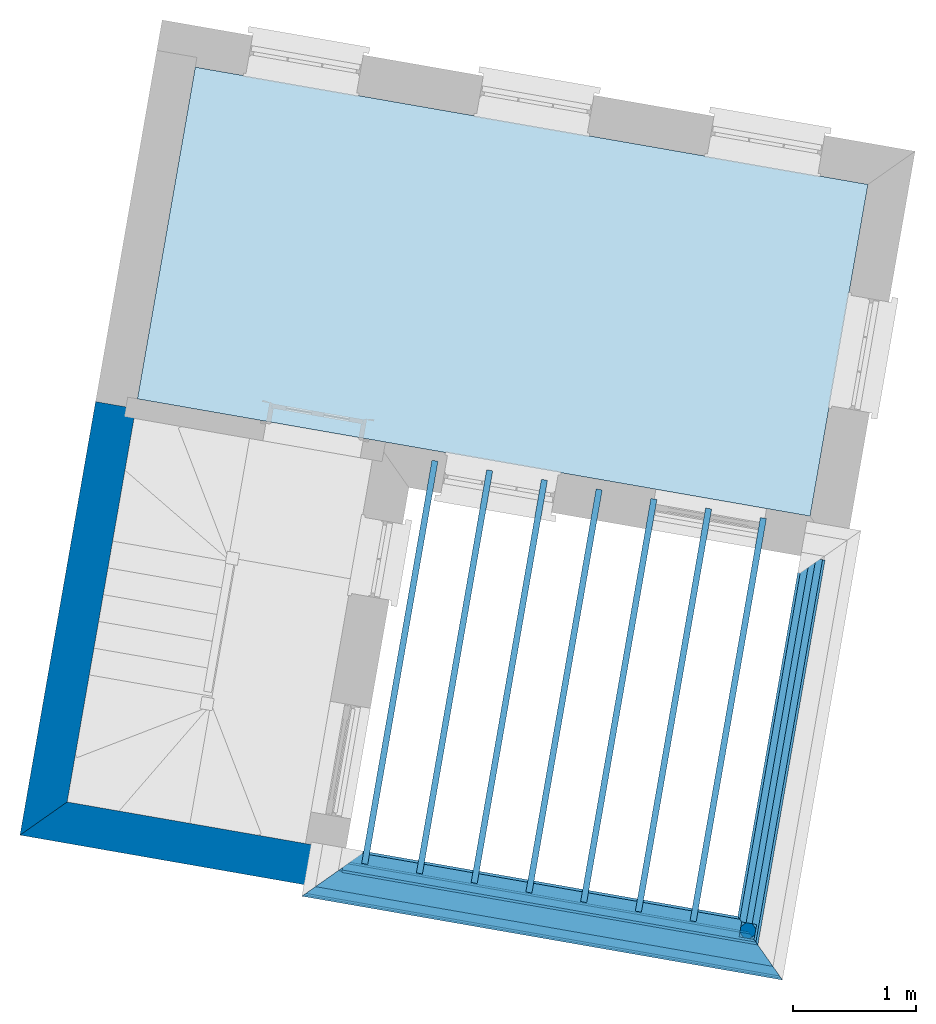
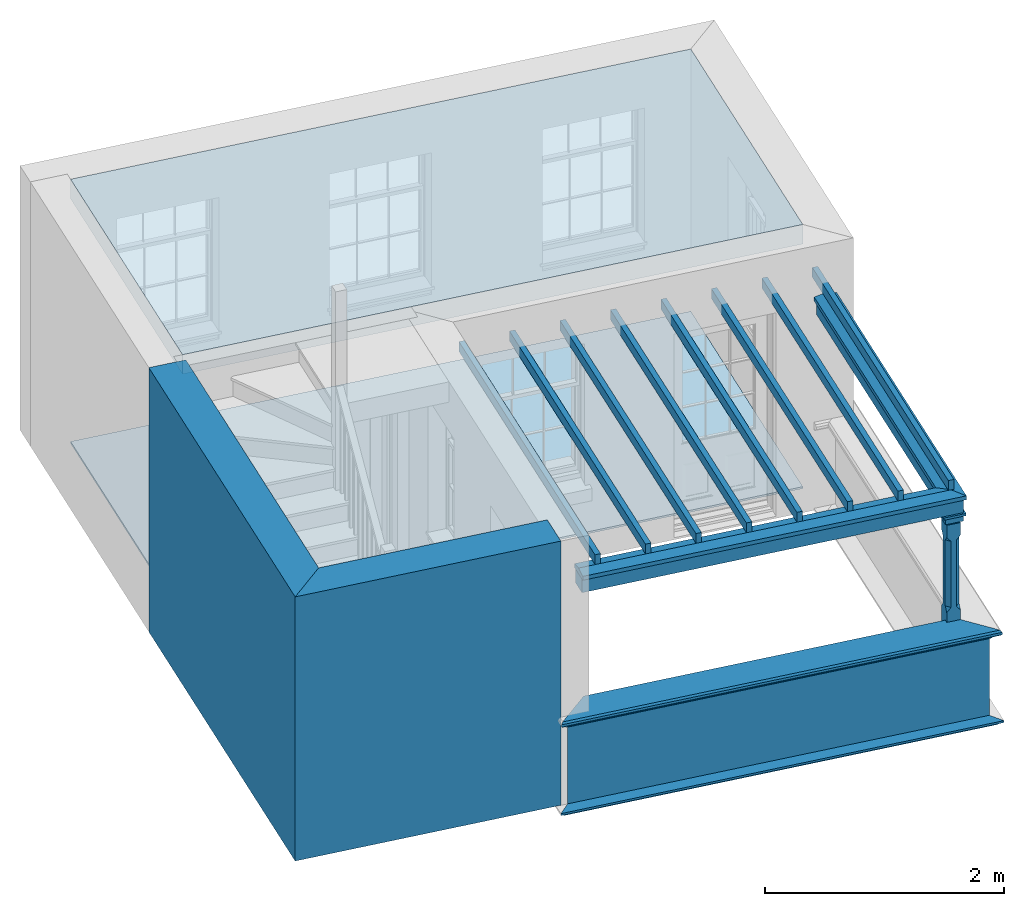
# One storey, part 1 of 6: 12 beams, 5 walls, 2 slabs, 1 column.
"""IFC4 building model written with IfcOpenShell, lengths in metres."""

from ifc_helpers import new_model, si_unit, frame, origin, origin_with_axes, place, context, subcontext, project, spatial, polyline, outline, extrude, clip, halfspace, faceted_brep, source, transform, mapped, material, layer, layer_set, layer_usage, material_profile, profile_set, profile_usage, type_object, type_shapes, element, save


model = new_model("IFC4")

# Units and contexts
model_context = context("Model", 3, world=origin_with_axes())
body_context = subcontext(model_context, "Body", "Model", "MODEL_VIEW")
ifc_project = project(units=[si_unit("PLANEANGLEUNIT", "RADIAN"), si_unit("MASSUNIT", "GRAM", prefix="KILO"), si_unit("FORCEUNIT", "NEWTON", prefix="KILO"), si_unit("LENGTHUNIT", "METRE"), si_unit("AREAUNIT", "SQUARE_METRE"), si_unit("VOLUMEUNIT", "CUBIC_METRE")], contexts=[model_context, model_context])

# Sites, building, storey
site_1_placement = place(None, origin_with_axes())
site_1 = spatial("IfcSite", under=ifc_project, at=site_1_placement, Name="Tamar")
site_2_placement = place(site_1_placement, origin_with_axes())
site_2 = spatial("IfcSite", under=site_1, at=site_2_placement, Name="Site plot-27", CompositionType="ELEMENT")
building_placement = place(None, origin_with_axes())
building = spatial("IfcBuilding", under=site_2, at=building_placement, Name="Building plot-27", CompositionType="ELEMENT")
storey_placement = place(None, frame((0.0, 0.0, 29.3), z_axis=(0.0, 0.0, 1.0), x_axis=(1.0, 0.0, 0.0)))
storey = spatial("IfcBuildingStorey", under=building, at=storey_placement, Name="plot-27 1", CompositionType="ELEMENT", Elevation=29.3)

# Column
column_type = type_object("IfcColumnType", Name="pergola post", PredefinedType="NOTDEFINED")
shared_shape = source(origin(), body_context, "Body", "Brep", [
    faceted_brep([(0.0246, -0.0615, 1.72), (0.0615, -0.0246, 1.72), (0.0615, -0.0615, 1.766667), (0.0615, -0.0246, 1.044444), (0.0246, -0.0615, 1.044444), (0.0615, 0.0246, 1.72), (0.0615, 0.0615, 1.766667), (-0.0246, -0.0615, 1.72), (-0.0615, -0.0615, 1.766667), (-0.0246, -0.0615, 1.044444), (0.0615, -0.0615, 0.997778), (0.0615, 0.0246, 1.044444), (0.0246, 0.0615, 1.72), (0.0615, 0.0615, 1.891111), (0.0615, -0.0615, 1.891111), (-0.0615, -0.0615, 1.891111), (-0.0615, -0.0246, 1.72), (-0.0615, -0.0246, 1.044444), (-0.0615, -0.0615, 0.997778), (0.0615, 0.0615, 0.997778), (0.0246, 0.0615, 1.044444), (-0.0246, 0.0615, 1.72), (-0.0615, 0.0615, 1.766667), (0.04305, 0.04305, 1.891111), (0.04305, -0.04305, 1.891111), (-0.0615, 0.0615, 1.891111), (-0.04305, -0.04305, 1.891111), (-0.0615, 0.0246, 1.72), (-0.0615, 0.0246, 1.044444), (0.0615, -0.0615, 0.053333), (-0.0615, -0.0615, 0.053333), (0.0615, 0.0615, 0.053333), (-0.0246, 0.0615, 1.044444), (-0.04305, 0.04305, 1.891111), (0.04305, 0.04305, 1.914444), (0.04305, -0.04305, 1.914444), (-0.04305, -0.04305, 1.914444), (-0.0615, 0.0615, 0.997778), (-0.0615, 0.0615, 0.053333), (-0.04305, -0.04305, 0.053333), (0.04305, -0.04305, 0.053333), (0.04305, 0.04305, 0.053333), (-0.04305, 0.04305, 1.914444), (0.07995, 0.07995, 1.914444), (0.07995, -0.07995, 1.914444), (-0.07995, -0.07995, 1.914444), (-0.04305, 0.04305, 0.053333), (-0.04305, -0.04305, 0.0), (0.04305, -0.04305, 0.0), (0.04305, 0.04305, 0.0), (-0.07995, 0.07995, 1.914444), (0.07995, 0.07995, 1.976667), (0.07995, -0.07995, 1.976667), (-0.07995, -0.07995, 1.976667), (-0.04305, 0.04305, 0.0), (-0.07995, 0.07995, 1.976667), (0.0984, 0.0984, 1.976667), (0.0984, -0.0984, 1.976667), (-0.0984, -0.0984, 1.976667), (-0.0984, 0.0984, 1.976667), (0.0984, 0.0984, 2.0), (0.0984, -0.0984, 2.0), (-0.0984, -0.0984, 2.0), (-0.0984, 0.0984, 2.0)], [[[0, 1, 2]], [[3, 1, 0, 4]], [[1, 5, 6, 2]], [[7, 0, 2, 8]], [[4, 0, 7, 9]], [[3, 4, 10]], [[1, 3, 11, 5]], [[5, 12, 6]], [[13, 14, 2, 6]], [[15, 8, 2, 14]], [[8, 16, 7]], [[9, 7, 16, 17]], [[9, 18, 10, 4]], [[3, 10, 19, 11]], [[20, 12, 5, 11]], [[21, 22, 6, 12]], [[14, 13, 23, 24]], [[13, 6, 22, 25]], [[25, 22, 8, 15]], [[26, 15, 14, 24]], [[16, 8, 22, 27]], [[27, 28, 17, 16]], [[17, 18, 9]], [[29, 10, 18, 30]], [[31, 19, 10, 29]], [[20, 11, 19]], [[12, 20, 32, 21]], [[21, 27, 22]], [[33, 23, 13, 25]], [[23, 34, 35, 24]], [[26, 33, 25, 15]], [[36, 26, 24, 35]], [[28, 27, 21, 32]], [[17, 28, 37, 18]], [[38, 30, 18, 37]], [[29, 30, 39, 40]], [[31, 38, 37, 19]], [[40, 41, 31, 29]], [[32, 20, 19, 37]], [[33, 42, 34, 23]], [[43, 44, 35, 34]], [[42, 33, 26, 36]], [[36, 35, 44, 45]], [[28, 32, 37]], [[46, 39, 30, 38]], [[39, 47, 48, 40]], [[46, 38, 31, 41]], [[49, 41, 40, 48]], [[43, 34, 42, 50]], [[43, 51, 52, 44]], [[45, 50, 42, 36]], [[53, 45, 44, 52]], [[46, 54, 47, 39]], [[54, 46, 41, 49]], [[50, 55, 51, 43]], [[56, 57, 52, 51]], [[55, 50, 45, 53]], [[53, 52, 57, 58]], [[56, 51, 55, 59]], [[56, 60, 61, 57]], [[58, 59, 55, 53]], [[62, 58, 57, 61]], [[59, 63, 60, 56]], [[63, 62, 61, 60]], [[58, 62, 63, 59]], [[47, 54, 49, 48]]]),
])
type_shapes(column_type, [shared_shape])
column_placement = place(storey_placement, frame((296.6306988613, 268.253621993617, 0.0), z_axis=(0.0, 0.0, 1.0), x_axis=(0.171788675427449, 0.985133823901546, 0.0)))
element("IfcColumn", 1, at=column_placement, inside=storey, type_object=column_type, Name="pergola post", context=body_context, shape_type="MappedRepresentation", body=[
    mapped(shared_shape, transform((0.0, 0.0, 0.0), scale=1.0)),
])

# Beams
ifc_material_profile_1 = material_profile(None, outline(polyline([(-0.08, -0.7), (0.08, -0.7), (0.08, -0.56), (-0.08, -0.56), (-0.08, -0.7)])))
ifc_profile_set_1 = profile_set([ifc_material_profile_1])
ifc_profile_usage_1 = profile_usage(ifc_profile_set_1)
beam_type_1 = type_object("IfcBeamType", Name="pergola beam_0", PredefinedType="NOTDEFINED", material=ifc_profile_set_1)
beam_1_placement = place(storey_placement, frame((297.615832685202, 268.08183331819, 2.7), z_axis=(-0.985133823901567, 0.171788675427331, 0.0), x_axis=(-0.171788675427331, -0.985133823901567, 0.0)))
element("IfcBeam", 2, at=beam_1_placement, inside=storey, type_object=beam_type_1, material=ifc_profile_usage_1, Name="pergola beam_0", context=body_context, shape_type="Clipping", body=[
    clip(clip(extrude(outline(polyline([(-0.08, -0.7), (0.08, -0.7), (0.08, -0.56), (-0.08, -0.56), (-0.08, -0.7)])), origin_with_axes(), (0.0, 0.0, 1.0), 5.32084823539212), halfspace(frame((0.0, 0.0, 4.32084823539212), z_axis=(-1.8935023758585e-14, 0.0, -1.0), x_axis=(0.0, 1.0, 0.0)), True)), halfspace(frame((0.0, 0.0, 1.0), z_axis=(-0.707106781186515, 0.0, -0.70710678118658), x_axis=(0.0, 1.0, 0.0)), False)),
])
ifc_profile_usage_2 = profile_usage(ifc_profile_set_1)
beam_2_placement = place(storey_placement, frame((297.328810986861, 272.256993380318, 2.7), z_axis=(-0.171788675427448, -0.985133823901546, 0.0), x_axis=(0.985133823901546, -0.171788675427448, 0.0)))
element("IfcBeam", 3, at=beam_2_placement, inside=storey, type_object=beam_type_1, material=ifc_profile_usage_2, Name="pergola beam_0", context=body_context, shape_type="Clipping", body=[
    clip(clip(extrude(outline(polyline([(-0.08, -0.7), (0.08, -0.7), (0.08, -0.56), (-0.08, -0.56), (-0.08, -0.7)])), origin_with_axes(), (0.0, 0.0, 1.0), 5.06378432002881), halfspace(frame((0.0, 0.0, 4.06378432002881), z_axis=(0.707106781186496, 0.0, -0.707106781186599), x_axis=(0.0, 1.0, 0.0)), True)), halfspace(frame((0.0, 0.0, 1.0), z_axis=(-2.62624957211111e-14, 0.0, -1.0), x_axis=(0.0, 1.0, 0.0)), False)),
])
ifc_material_profile_2 = material_profile(None, outline(polyline([(0.0, -0.5), (-0.1, -0.52), (-0.1, -0.56), (0.1, -0.56), (0.1, -0.52), (0.0, -0.5)])))
ifc_profile_set_2 = profile_set([ifc_material_profile_2])
ifc_profile_usage_3 = profile_usage(ifc_profile_set_2)
beam_type_2 = type_object("IfcBeamType", Name="pergola beam_1", PredefinedType="NOTDEFINED", material=ifc_profile_set_2)
beam_3_placement = place(storey_placement, frame((297.615832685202, 268.08183331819, 2.7), z_axis=(-0.985133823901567, 0.171788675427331, 0.0), x_axis=(-0.171788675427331, -0.985133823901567, 0.0)))
element("IfcBeam", 4, at=beam_3_placement, inside=storey, type_object=beam_type_2, material=ifc_profile_usage_3, Name="pergola beam_1", context=body_context, shape_type="Clipping", body=[
    clip(clip(extrude(outline(polyline([(0.0, -0.5), (-0.1, -0.52), (-0.1, -0.56), (0.1, -0.56), (0.1, -0.52), (0.0, -0.5)])), origin_with_axes(), (0.0, 0.0, 1.0), 5.32084823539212), halfspace(frame((0.0, 0.0, 4.32084823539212), z_axis=(-1.8935023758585e-14, 0.0, -1.0), x_axis=(0.0, 1.0, 0.0)), True)), halfspace(frame((0.0, 0.0, 1.0), z_axis=(-0.707106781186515, 0.0, -0.70710678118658), x_axis=(0.0, 1.0, 0.0)), False)),
])
ifc_profile_usage_4 = profile_usage(ifc_profile_set_2)
beam_4_placement = place(storey_placement, frame((297.328810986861, 272.256993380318, 2.7), z_axis=(-0.171788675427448, -0.985133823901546, 0.0), x_axis=(0.985133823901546, -0.171788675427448, 0.0)))
element("IfcBeam", 5, at=beam_4_placement, inside=storey, type_object=beam_type_2, material=ifc_profile_usage_4, Name="pergola beam_1", context=body_context, shape_type="Clipping", body=[
    clip(clip(extrude(outline(polyline([(0.0, -0.5), (-0.1, -0.52), (-0.1, -0.56), (0.1, -0.56), (0.1, -0.52), (0.0, -0.5)])), origin_with_axes(), (0.0, 0.0, 1.0), 5.06378432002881), halfspace(frame((0.0, 0.0, 4.06378432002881), z_axis=(0.707106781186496, 0.0, -0.707106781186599), x_axis=(0.0, 1.0, 0.0)), True)), halfspace(frame((0.0, 0.0, 1.0), z_axis=(-2.62624957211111e-14, 0.0, -1.0), x_axis=(0.0, 1.0, 0.0)), False)),
])
beam_5_placement = place(storey_placement, frame((297.224597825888, 271.513848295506, 2.2)))
element("IfcBeam", 6, at=beam_5_placement, inside=storey, Name="My Beam", ObjectType="Beam", context=body_context, shape_type="SweptSolid", body=[
    extrude(outline(polyline([(0.0, 0.0), (-0.0492566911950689, 0.00858943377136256), (-0.618527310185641, -3.25593158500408), (-0.569270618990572, -3.26452101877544), (0.0, 0.0)])), origin_with_axes(), (0.0, 0.0, 1.0), 0.1),
])
for number, where, name in (
    (7, (296.781287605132, 271.591153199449, 2.2), "My Beam"),
    (8, (296.337977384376, 271.668458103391, 2.2), "My Beam"),
):
    element("IfcBeam", number, at=place(storey_placement, frame(where)), inside=storey, Name=name, ObjectType="Beam", context=body_context, shape_type="SweptSolid", body=[
        extrude(outline(polyline([(0.0, 0.0), (-0.0492566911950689, 0.00858943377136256), (-0.618527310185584, -3.25593158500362), (-0.569270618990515, -3.26452101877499), (0.0, 0.0)])), origin_with_axes(), (0.0, 0.0, 1.0), 0.1),
    ])
for number, where, name in (
    (9, (295.894667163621, 271.745763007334, 2.2), "My Beam"),
    (10, (295.451356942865, 271.823067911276, 2.2), "My Beam"),
    (11, (295.008046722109, 271.900372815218, 2.2), "My Beam"),
):
    element("IfcBeam", number, at=place(storey_placement, frame(where)), inside=storey, Name=name, ObjectType="Beam", context=body_context, shape_type="SweptSolid", body=[
        extrude(outline(polyline([(0.0, 0.0), (-0.0492566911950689, 0.00858943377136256), (-0.618527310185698, -3.2559315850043), (-0.569270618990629, -3.26452101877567), (0.0, 0.0)])), origin_with_axes(), (0.0, 0.0, 1.0), 0.1),
    ])
beam_6_placement = place(storey_placement, frame((294.564736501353, 271.977677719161, 2.2)))
element("IfcBeam", 12, at=beam_6_placement, inside=storey, Name="My Beam", ObjectType="Beam", context=body_context, shape_type="SweptSolid", body=[
    extrude(outline(polyline([(0.0, 0.0), (-0.0492566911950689, 0.00858943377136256), (-0.618527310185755, -3.25593158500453), (-0.569270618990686, -3.26452101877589), (0.0, 0.0)])), origin_with_axes(), (0.0, 0.0, 1.0), 0.1),
])
beam_7_placement = place(storey_placement, frame((294.121426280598, 272.054982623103, 2.2)))
element("IfcBeam", 13, at=beam_7_placement, inside=storey, Name="My Beam", ObjectType="Beam", context=body_context, shape_type="SweptSolid", body=[
    extrude(outline(polyline([(0.0, 0.0), (-0.0492566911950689, 0.00858943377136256), (-0.618527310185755, -3.25593158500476), (-0.569270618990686, -3.26452101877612), (0.0, 0.0)])), origin_with_axes(), (0.0, 0.0, 1.0), 0.1),
])

# Slabs
slab_1_placement = place(storey_placement, frame((297.603352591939, 274.297059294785, 2.5)))
element("IfcSlab", 14, at=slab_1_placement, inside=storey, Name="My Slab", ObjectType="Slab", PredefinedType="FLOOR", context=body_context, shape_type="SweptSolid", body=[
    extrude(outline(polyline([(0.0, 0.0), (-5.44747817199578, 0.949936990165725), (-5.91592889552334, -1.73642549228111), (-0.468450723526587, -2.68636248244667), (0.0, 0.0)])), origin_with_axes(), (0.0, 0.0, 1.0), 0.2),
])
slab_2_placement = place(storey_placement, frame((297.603352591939, 274.297059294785, 0.0)))
element("IfcSlab", 15, at=slab_2_placement, inside=storey, Name="My Slab", ObjectType="Slab", PredefinedType="FLOOR", context=body_context, shape_type="SweptSolid", body=[
    extrude(outline(polyline([(0.0, 0.0), (-5.44747817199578, 0.949936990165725), (-5.91592889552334, -1.73642549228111), (-0.468450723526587, -2.68636248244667), (0.0, 0.0)])), origin_with_axes(), (0.0, 0.0, 1.0), 0.02),
])

# Walls
ifc_material = material(Name="Masonry")
ifc_layer = layer(ifc_material, 0.33, ventilated=False)
ifc_layer_set = layer_set([ifc_layer], Name="party_0.08_0.25")
ifc_layer_usage = layer_usage(ifc_layer_set, "AXIS2", "POSITIVE", -0.25)
wall_type_1 = type_object("IfcWallType", Name="party_0.08_0.25", PredefinedType="SOLIDWALL", material=ifc_layer_set)
wall_1_placement = place(storey_placement, frame((291.594869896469, 272.495566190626, 0.0), z_axis=(0.0, 0.0, 1.0), x_axis=(-0.171788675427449, -0.985133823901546, 0.0)))
element("IfcWall", 16, at=wall_1_placement, inside=storey, type_object=wall_type_1, material=ifc_layer_usage, Name="party", context=body_context, shape_type="SweptSolid", body=[
    extrude(outline(polyline([(2.7554362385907e-14, 0.0800000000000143), (-6.06028690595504e-14, -0.250000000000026), (3.5637843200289, -0.250000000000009), (3.23378432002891, 0.0799999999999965), (2.7554362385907e-14, 0.0800000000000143)])), origin_with_axes(), (0.0, 0.0, 1.0), 2.7),
])
wall_2_placement = place(storey_placement, frame((291.025599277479, 269.231045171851, 0.0), z_axis=(0.0, 0.0, 1.0), x_axis=(0.985133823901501, -0.171788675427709, 0.0)))
element("IfcWall", 17, at=wall_2_placement, inside=storey, type_object=wall_type_1, material=ifc_layer_usage, Name="party", context=body_context, shape_type="SweptSolid", body=[
    extrude(outline(polyline([(0.0799999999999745, 0.079999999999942), (-0.249999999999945, -0.250000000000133), (2.11883518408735, -0.250000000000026), (2.11883518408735, 0.0800000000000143), (0.0799999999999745, 0.079999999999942)])), origin_with_axes(), (0.0, 0.0, 1.0), 2.7),
])
ifc_material_profile_3 = material_profile(None, outline(polyline([(0.25, 0.0), (0.25, 0.795), (0.09, 0.795), (0.09, 0.02), (-0.08, 0.02), (-0.08, 0.0), (0.25, 0.0)])))
ifc_profile_set_3 = profile_set([ifc_material_profile_3])
ifc_profile_usage_5 = profile_usage(ifc_profile_set_3)
wall_type_2 = type_object("IfcWallType", Name="parapet_0", PredefinedType="PARAPET", material=ifc_profile_set_3)
wall_3_placement = place(storey_placement, frame((297.615832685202, 268.08183331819, 0.0), z_axis=(-0.985133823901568, 0.171788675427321, 0.0), x_axis=(-0.171788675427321, -0.985133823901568, 0.0)))
element("IfcWall", 18, at=wall_3_placement, inside=storey, type_object=wall_type_2, material=ifc_profile_usage_5, Name="parapet_0", context=body_context, shape_type="Clipping", body=[
    clip(clip(extrude(outline(polyline([(0.25, 0.0), (0.25, 0.795), (0.09, 0.795), (0.09, 0.02), (-0.08, 0.02), (-0.08, 0.0), (0.25, 0.0)])), origin_with_axes(), (0.0, 0.0, 1.0), 5.26084823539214), halfspace(frame((0.0, 0.0, 4.26084823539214), z_axis=(0.707106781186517, 0.0, -0.707106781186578), x_axis=(0.0, 1.0, 0.0)), True)), halfspace(frame((0.0, 0.0, 1.0), z_axis=(-0.707106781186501, 0.0, -0.707106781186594), x_axis=(0.0, 1.0, 0.0)), False)),
])
ifc_material_profile_4 = material_profile(None, outline(polyline([(0.265, 0.795), (0.268, 0.807), (0.274, 0.816), (0.283, 0.822), (0.295, 0.825), (0.295, 0.84), (0.305, 0.84), (0.317, 0.842), (0.326, 0.849), (0.333, 0.858), (0.335, 0.87), (0.333, 0.882), (0.326, 0.891), (0.317, 0.898), (0.305, 0.9), (0.035, 0.9), (0.023, 0.898), (0.014, 0.891), (0.007, 0.882), (0.005, 0.87), (0.007, 0.858), (0.014, 0.849), (0.023, 0.842), (0.035, 0.84), (0.045, 0.84), (0.045, 0.825), (0.057, 0.822), (0.066, 0.816), (0.072, 0.807), (0.075, 0.795), (0.265, 0.795)])))
ifc_profile_set_4 = profile_set([ifc_material_profile_4])
ifc_profile_usage_6 = profile_usage(ifc_profile_set_4)
wall_type_3 = type_object("IfcWallType", Name="parapet_1", PredefinedType="PARAPET", material=ifc_profile_set_4)
wall_4_placement = place(storey_placement, frame((297.615832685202, 268.08183331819, 0.0), z_axis=(-0.985133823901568, 0.171788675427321, 0.0), x_axis=(-0.171788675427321, -0.985133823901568, 0.0)))
element("IfcWall", 19, at=wall_4_placement, inside=storey, type_object=wall_type_3, material=ifc_profile_usage_6, Name="parapet_1", context=body_context, shape_type="Clipping", body=[
    clip(clip(extrude(outline(polyline([(0.265, 0.795), (0.268, 0.807), (0.274, 0.816), (0.283, 0.822), (0.295, 0.825), (0.295, 0.84), (0.305, 0.84), (0.317, 0.842), (0.326, 0.849), (0.333, 0.858), (0.335, 0.87), (0.333, 0.882), (0.326, 0.891), (0.317, 0.898), (0.305, 0.9), (0.035, 0.9), (0.023, 0.898), (0.014, 0.891), (0.007, 0.882), (0.005, 0.87), (0.007, 0.858), (0.014, 0.849), (0.023, 0.842), (0.035, 0.84), (0.045, 0.84), (0.045, 0.825), (0.057, 0.822), (0.066, 0.816), (0.072, 0.807), (0.075, 0.795), (0.265, 0.795)])), origin_with_axes(), (0.0, 0.0, 1.0), 5.26084823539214), halfspace(frame((0.0, 0.0, 4.26084823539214), z_axis=(0.707106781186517, 0.0, -0.707106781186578), x_axis=(0.0, 1.0, 0.0)), True)), halfspace(frame((0.0, 0.0, 1.0), z_axis=(-0.707106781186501, 0.0, -0.707106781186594), x_axis=(0.0, 1.0, 0.0)), False)),
])
ifc_material_profile_5 = material_profile(None, outline(polyline([(0.25, -0.1), (0.265, -0.1), (0.265, -0.085), (0.278, -0.084), (0.289, -0.081), (0.301, -0.074), (0.309, -0.065), (0.315, -0.055), (0.324, -0.044), (0.334, -0.038), (0.345, -0.035), (0.345, -0.015), (0.25, 0.0), (0.25, -0.1)])))
ifc_profile_set_5 = profile_set([ifc_material_profile_5])
ifc_profile_usage_7 = profile_usage(ifc_profile_set_5)
wall_type_4 = type_object("IfcWallType", Name="parapet_2", PredefinedType="PARAPET", material=ifc_profile_set_5)
wall_5_placement = place(storey_placement, frame((297.615832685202, 268.08183331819, 0.0), z_axis=(-0.985133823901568, 0.171788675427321, 0.0), x_axis=(-0.171788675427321, -0.985133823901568, 0.0)))
element("IfcWall", 20, at=wall_5_placement, inside=storey, type_object=wall_type_4, material=ifc_profile_usage_7, Name="parapet_2", context=body_context, shape_type="Clipping", body=[
    clip(clip(extrude(outline(polyline([(0.25, -0.1), (0.265, -0.1), (0.265, -0.085), (0.278, -0.084), (0.289, -0.081), (0.301, -0.074), (0.309, -0.065), (0.315, -0.055), (0.324, -0.044), (0.334, -0.038), (0.345, -0.035), (0.345, -0.015), (0.25, 0.0), (0.25, -0.1)])), origin_with_axes(), (0.0, 0.0, 1.0), 5.26084823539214), halfspace(frame((0.0, 0.0, 4.26084823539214), z_axis=(0.707106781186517, 0.0, -0.707106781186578), x_axis=(0.0, 1.0, 0.0)), True)), halfspace(frame((0.0, 0.0, 1.0), z_axis=(-0.707106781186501, 0.0, -0.707106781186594), x_axis=(0.0, 1.0, 0.0)), False)),
])

save(model, "model.ifc")
